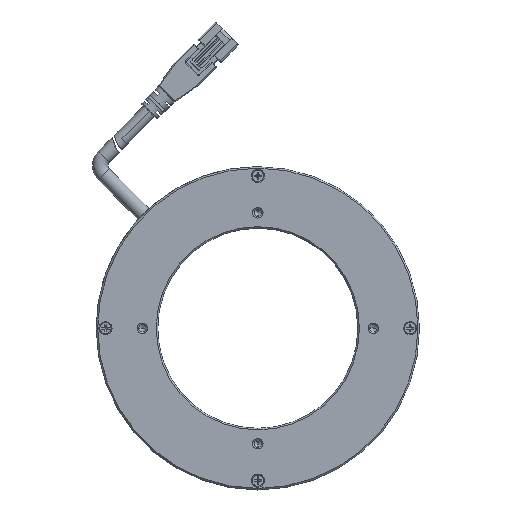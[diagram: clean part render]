
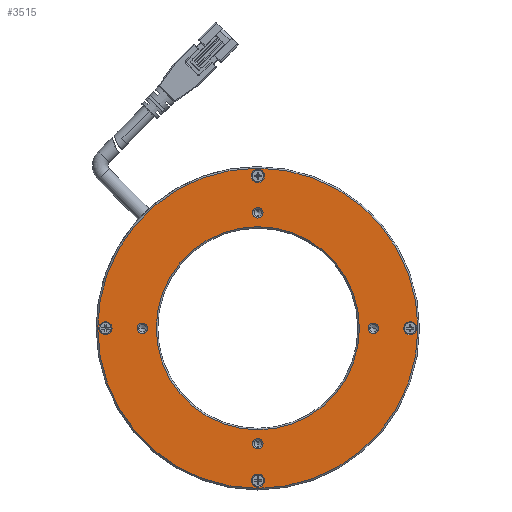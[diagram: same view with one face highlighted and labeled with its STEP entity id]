
A CAD part, top view. The second image highlights one B-rep face of the part: STEP entity #3515.
In plain terms, the highlighted planar face has unit normal (0, 0, 1).
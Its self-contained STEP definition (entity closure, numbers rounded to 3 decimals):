
#323=CARTESIAN_POINT('',(0.,0.,2.));
#324=DIRECTION('',(0.,0.,-1.));
#325=DIRECTION('',(-1.,0.,0.));
#326=AXIS2_PLACEMENT_3D('',#323,#324,#325);
#328=CARTESIAN_POINT('',(0.,0.,2.));
#329=DIRECTION('',(0.,0.,-1.));
#330=DIRECTION('',(1.,0.,0.));
#331=AXIS2_PLACEMENT_3D('',#328,#329,#330);
#333=CARTESIAN_POINT('',(37.5,0.,2.));
#334=DIRECTION('',(0.,0.,-1.));
#335=DIRECTION('',(-1.,0.,0.));
#336=AXIS2_PLACEMENT_3D('',#333,#334,#335);
#338=CARTESIAN_POINT('',(37.5,0.,2.));
#339=DIRECTION('',(0.,0.,-1.));
#340=DIRECTION('',(1.,0.,0.));
#341=AXIS2_PLACEMENT_3D('',#338,#339,#340);
#343=CARTESIAN_POINT('',(0.,-37.5,2.));
#344=DIRECTION('',(0.,0.,-1.));
#345=DIRECTION('',(0.,1.,0.));
#346=AXIS2_PLACEMENT_3D('',#343,#344,#345);
#348=CARTESIAN_POINT('',(0.,-37.5,2.));
#349=DIRECTION('',(0.,0.,-1.));
#350=DIRECTION('',(0.,-1.,0.));
#351=AXIS2_PLACEMENT_3D('',#348,#349,#350);
#353=CARTESIAN_POINT('',(-37.5,0.,2.));
#354=DIRECTION('',(0.,0.,-1.));
#355=DIRECTION('',(1.,0.,0.));
#356=AXIS2_PLACEMENT_3D('',#353,#354,#355);
#358=CARTESIAN_POINT('',(-37.5,0.,2.));
#359=DIRECTION('',(0.,0.,-1.));
#360=DIRECTION('',(-1.,0.,0.));
#361=AXIS2_PLACEMENT_3D('',#358,#359,#360);
#363=CARTESIAN_POINT('',(0.,37.5,2.));
#364=DIRECTION('',(0.,0.,-1.));
#365=DIRECTION('',(0.,-1.,0.));
#366=AXIS2_PLACEMENT_3D('',#363,#364,#365);
#368=CARTESIAN_POINT('',(0.,37.5,2.));
#369=DIRECTION('',(0.,0.,-1.));
#370=DIRECTION('',(0.,1.,0.));
#371=AXIS2_PLACEMENT_3D('',#368,#369,#370);
#373=CARTESIAN_POINT('',(-49.5,0.,2.));
#374=DIRECTION('',(0.,0.,-1.));
#375=DIRECTION('',(-1.,0.,0.));
#376=AXIS2_PLACEMENT_3D('',#373,#374,#375);
#378=CARTESIAN_POINT('',(-49.5,0.,2.));
#379=DIRECTION('',(0.,0.,-1.));
#380=DIRECTION('',(1.,0.,0.));
#381=AXIS2_PLACEMENT_3D('',#378,#379,#380);
#383=CARTESIAN_POINT('',(0.,49.5,2.));
#384=DIRECTION('',(0.,0.,-1.));
#385=DIRECTION('',(0.,1.,0.));
#386=AXIS2_PLACEMENT_3D('',#383,#384,#385);
#388=CARTESIAN_POINT('',(0.,49.5,2.));
#389=DIRECTION('',(0.,0.,-1.));
#390=DIRECTION('',(0.,-1.,0.));
#391=AXIS2_PLACEMENT_3D('',#388,#389,#390);
#393=CARTESIAN_POINT('',(49.5,0.,2.));
#394=DIRECTION('',(0.,0.,-1.));
#395=DIRECTION('',(1.,0.,0.));
#396=AXIS2_PLACEMENT_3D('',#393,#394,#395);
#398=CARTESIAN_POINT('',(49.5,0.,2.));
#399=DIRECTION('',(0.,0.,-1.));
#400=DIRECTION('',(-1.,0.,0.));
#401=AXIS2_PLACEMENT_3D('',#398,#399,#400);
#403=CARTESIAN_POINT('',(0.,-49.5,2.));
#404=DIRECTION('',(0.,0.,-1.));
#405=DIRECTION('',(0.,-1.,0.));
#406=AXIS2_PLACEMENT_3D('',#403,#404,#405);
#408=CARTESIAN_POINT('',(0.,-49.5,2.));
#409=DIRECTION('',(0.,0.,-1.));
#410=DIRECTION('',(0.,1.,0.));
#411=AXIS2_PLACEMENT_3D('',#408,#409,#410);
#413=CARTESIAN_POINT('',(0.,0.,2.));
#414=DIRECTION('',(0.,0.,1.));
#415=DIRECTION('',(1.,0.,0.));
#416=AXIS2_PLACEMENT_3D('',#413,#414,#415);
#418=CARTESIAN_POINT('',(0.,0.,2.));
#419=DIRECTION('',(0.,0.,1.));
#420=DIRECTION('',(-1.,0.,0.));
#421=AXIS2_PLACEMENT_3D('',#418,#419,#420);
#2456=CARTESIAN_POINT('',(-52.,0.,2.));
#2457=CARTESIAN_POINT('',(52.,0.,2.));
#2458=VERTEX_POINT('',#2456);
#2459=VERTEX_POINT('',#2457);
#2460=CARTESIAN_POINT('',(0.,-47.35,2.));
#2461=CARTESIAN_POINT('',(0.,-51.65,2.));
#2462=VERTEX_POINT('',#2460);
#2463=VERTEX_POINT('',#2461);
#2464=CARTESIAN_POINT('',(47.35,0.,2.));
#2465=CARTESIAN_POINT('',(51.65,0.,2.));
#2466=VERTEX_POINT('',#2464);
#2467=VERTEX_POINT('',#2465);
#2468=CARTESIAN_POINT('',(0.,47.35,2.));
#2469=CARTESIAN_POINT('',(0.,51.65,2.));
#2470=VERTEX_POINT('',#2468);
#2471=VERTEX_POINT('',#2469);
#2472=CARTESIAN_POINT('',(-47.35,0.,2.));
#2473=CARTESIAN_POINT('',(-51.65,0.,2.));
#2474=VERTEX_POINT('',#2472);
#2475=VERTEX_POINT('',#2473);
#2476=CARTESIAN_POINT('',(0.,39.2,2.));
#2477=CARTESIAN_POINT('',(0.,35.8,2.));
#2478=VERTEX_POINT('',#2476);
#2479=VERTEX_POINT('',#2477);
#2480=CARTESIAN_POINT('',(-39.2,0.,2.));
#2481=CARTESIAN_POINT('',(-35.8,0.,2.));
#2482=VERTEX_POINT('',#2480);
#2483=VERTEX_POINT('',#2481);
#2484=CARTESIAN_POINT('',(0.,-39.2,2.));
#2485=CARTESIAN_POINT('',(0.,-35.8,2.));
#2486=VERTEX_POINT('',#2484);
#2487=VERTEX_POINT('',#2485);
#2488=CARTESIAN_POINT('',(39.2,0.,2.));
#2489=CARTESIAN_POINT('',(35.8,0.,2.));
#2490=VERTEX_POINT('',#2488);
#2491=VERTEX_POINT('',#2489);
#2492=CARTESIAN_POINT('',(33.,0.,2.));
#2493=CARTESIAN_POINT('',(-33.,0.,2.));
#2494=VERTEX_POINT('',#2492);
#2495=VERTEX_POINT('',#2493);
#3452=CARTESIAN_POINT('',(0.,0.,2.));
#3453=DIRECTION('',(0.,0.,1.));
#3454=DIRECTION('',(-1.,0.,0.));
#3455=AXIS2_PLACEMENT_3D('',#3452,#3453,#3454);
#3456=PLANE('',#3455);
#3458=ORIENTED_EDGE('',*,*,#3457,.F.);
#3460=ORIENTED_EDGE('',*,*,#3459,.F.);
#3461=EDGE_LOOP('',(#3458,#3460));
#3462=FACE_OUTER_BOUND('',#3461,.F.);
#3464=ORIENTED_EDGE('',*,*,#3463,.F.);
#3466=ORIENTED_EDGE('',*,*,#3465,.F.);
#3467=EDGE_LOOP('',(#3464,#3466));
#3468=FACE_BOUND('',#3467,.F.);
#3470=ORIENTED_EDGE('',*,*,#3469,.F.);
#3472=ORIENTED_EDGE('',*,*,#3471,.F.);
#3473=EDGE_LOOP('',(#3470,#3472));
#3474=FACE_BOUND('',#3473,.F.);
#3476=ORIENTED_EDGE('',*,*,#3475,.F.);
#3478=ORIENTED_EDGE('',*,*,#3477,.F.);
#3479=EDGE_LOOP('',(#3476,#3478));
#3480=FACE_BOUND('',#3479,.F.);
#3482=ORIENTED_EDGE('',*,*,#3481,.F.);
#3484=ORIENTED_EDGE('',*,*,#3483,.F.);
#3485=EDGE_LOOP('',(#3482,#3484));
#3486=FACE_BOUND('',#3485,.F.);
#3488=ORIENTED_EDGE('',*,*,#3487,.F.);
#3490=ORIENTED_EDGE('',*,*,#3489,.F.);
#3491=EDGE_LOOP('',(#3488,#3490));
#3492=FACE_BOUND('',#3491,.F.);
#3493=ORIENTED_EDGE('',*,*,#3417,.F.);
#3494=ORIENTED_EDGE('',*,*,#3445,.F.);
#3495=EDGE_LOOP('',(#3493,#3494));
#3496=FACE_BOUND('',#3495,.F.);
#3498=ORIENTED_EDGE('',*,*,#3497,.F.);
#3500=ORIENTED_EDGE('',*,*,#3499,.F.);
#3501=EDGE_LOOP('',(#3498,#3500));
#3502=FACE_BOUND('',#3501,.F.);
#3504=ORIENTED_EDGE('',*,*,#3503,.F.);
#3506=ORIENTED_EDGE('',*,*,#3505,.F.);
#3507=EDGE_LOOP('',(#3504,#3506));
#3508=FACE_BOUND('',#3507,.F.);
#3510=ORIENTED_EDGE('',*,*,#3509,.F.);
#3512=ORIENTED_EDGE('',*,*,#3511,.F.);
#3513=EDGE_LOOP('',(#3510,#3512));
#3514=FACE_BOUND('',#3513,.F.);
#3515=ADVANCED_FACE('',(#3462,#3468,#3474,#3480,#3486,#3492,#3496,#3502,#3508,
#3514),#3456,.T.);
#327=CIRCLE('',#326,33.);
#332=CIRCLE('',#331,33.);
#337=CIRCLE('',#336,1.7);
#342=CIRCLE('',#341,1.7);
#347=CIRCLE('',#346,1.7);
#352=CIRCLE('',#351,1.7);
#357=CIRCLE('',#356,1.7);
#362=CIRCLE('',#361,1.7);
#367=CIRCLE('',#366,1.7);
#372=CIRCLE('',#371,1.7);
#377=CIRCLE('',#376,2.15);
#382=CIRCLE('',#381,2.15);
#387=CIRCLE('',#386,2.15);
#392=CIRCLE('',#391,2.15);
#397=CIRCLE('',#396,2.15);
#402=CIRCLE('',#401,2.15);
#407=CIRCLE('',#406,2.15);
#412=CIRCLE('',#411,2.15);
#417=CIRCLE('',#416,52.);
#422=CIRCLE('',#421,52.);
#3417=EDGE_CURVE('',#2471,#2470,#387,.T.);
#3445=EDGE_CURVE('',#2470,#2471,#392,.T.);
#3457=EDGE_CURVE('',#2459,#2458,#417,.T.);
#3459=EDGE_CURVE('',#2458,#2459,#422,.T.);
#3463=EDGE_CURVE('',#2491,#2490,#337,.T.);
#3465=EDGE_CURVE('',#2490,#2491,#342,.T.);
#3469=EDGE_CURVE('',#2487,#2486,#347,.T.);
#3471=EDGE_CURVE('',#2486,#2487,#352,.T.);
#3475=EDGE_CURVE('',#2483,#2482,#357,.T.);
#3477=EDGE_CURVE('',#2482,#2483,#362,.T.);
#3481=EDGE_CURVE('',#2479,#2478,#367,.T.);
#3483=EDGE_CURVE('',#2478,#2479,#372,.T.);
#3487=EDGE_CURVE('',#2475,#2474,#377,.T.);
#3489=EDGE_CURVE('',#2474,#2475,#382,.T.);
#3497=EDGE_CURVE('',#2467,#2466,#397,.T.);
#3499=EDGE_CURVE('',#2466,#2467,#402,.T.);
#3503=EDGE_CURVE('',#2463,#2462,#407,.T.);
#3505=EDGE_CURVE('',#2462,#2463,#412,.T.);
#3509=EDGE_CURVE('',#2495,#2494,#327,.T.);
#3511=EDGE_CURVE('',#2494,#2495,#332,.T.);
